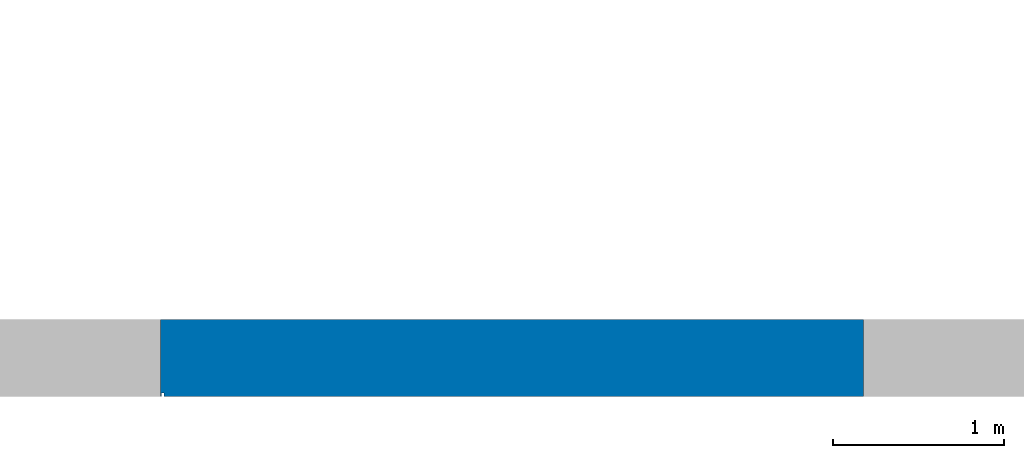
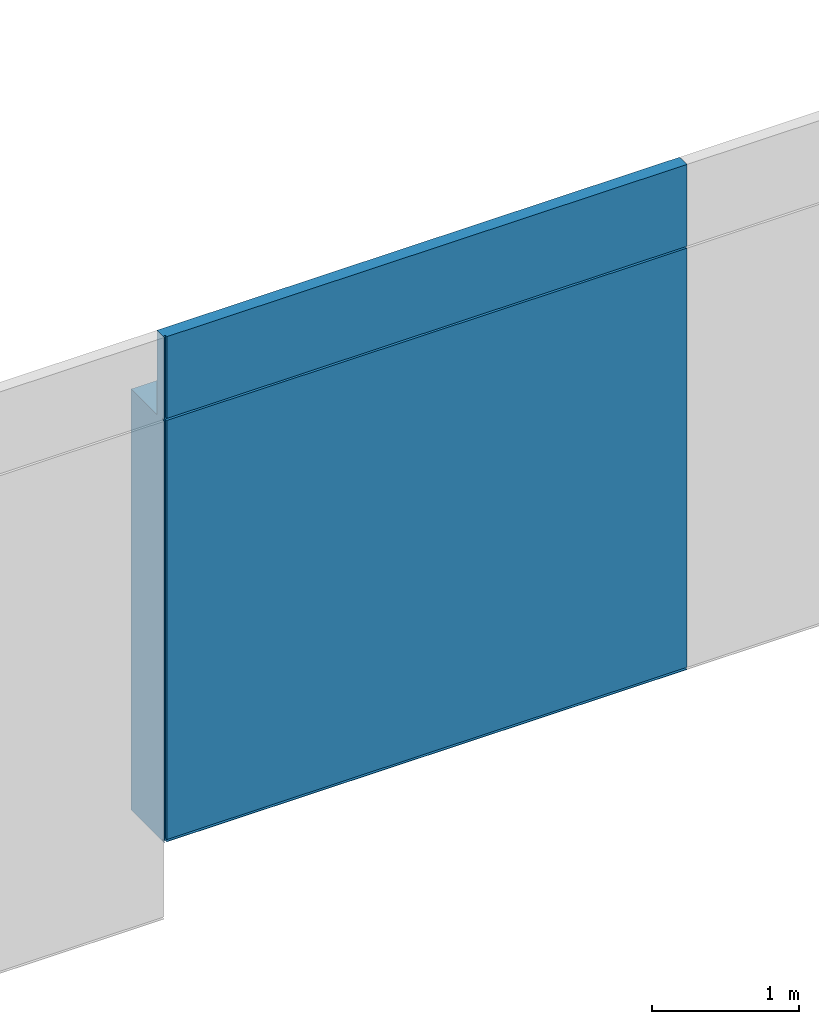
# One storey, part 5 of 33: 1 wall, 4 openings.
"""IFC2X3 building model written with IfcOpenShell, lengths in millimetres."""

from ifc_helpers import new_model, entity, si_unit, converted_unit, derived_unit, direction, frame, frame_2d, origin, origin_2d_with_axis, place, context, subcontext, project, spatial, polyline, rectangle, extrude, clip, bounded_halfspace, material, layer, layer_set, layer_usage, type_object, element, save


model = new_model("IFC2X3")

# Units and contexts
model_context = context("Model", 3, precision=0.01, world=origin(), true_north=direction((6.12303176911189e-17, 1.0)))
body_context = subcontext(model_context, "Body", "Model", "MODEL_VIEW")
ifc_project = project(units=[si_unit("LENGTHUNIT", "METRE", prefix="MILLI"), si_unit("AREAUNIT", "SQUARE_METRE"), si_unit("VOLUMEUNIT", "CUBIC_METRE"), converted_unit("PLANEANGLEUNIT", "DEGREE", entity("IfcRatioMeasure", 0.0174532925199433), si_unit("PLANEANGLEUNIT", "RADIAN"), dimensions=[0, 0, 0, 0, 0, 0, 0]), si_unit("MASSUNIT", "GRAM", prefix="KILO"), derived_unit("MASSDENSITYUNIT", [(si_unit("MASSUNIT", "GRAM", prefix="KILO"), 1), (si_unit("LENGTHUNIT", "METRE"), -3)]), si_unit("TIMEUNIT", "SECOND"), si_unit("FREQUENCYUNIT", "HERTZ"), si_unit("THERMODYNAMICTEMPERATUREUNIT", "DEGREE_CELSIUS"), derived_unit("THERMALTRANSMITTANCEUNIT", [(si_unit("MASSUNIT", "GRAM", prefix="KILO"), 1), (si_unit("THERMODYNAMICTEMPERATUREUNIT", "KELVIN"), -1), (si_unit("TIMEUNIT", "SECOND"), -3)]), derived_unit("VOLUMETRICFLOWRATEUNIT", [(si_unit("LENGTHUNIT", "METRE"), 3), (si_unit("TIMEUNIT", "SECOND"), -1)]), si_unit("ELECTRICCURRENTUNIT", "AMPERE"), si_unit("ELECTRICVOLTAGEUNIT", "VOLT"), si_unit("POWERUNIT", "WATT"), si_unit("FORCEUNIT", "NEWTON", prefix="KILO"), si_unit("ILLUMINANCEUNIT", "LUX"), si_unit("LUMINOUSFLUXUNIT", "LUMEN"), si_unit("LUMINOUSINTENSITYUNIT", "CANDELA"), derived_unit("USERDEFINED", [(si_unit("MASSUNIT", "GRAM", prefix="KILO"), -1), (si_unit("LENGTHUNIT", "METRE"), -2), (si_unit("TIMEUNIT", "SECOND"), 3), (si_unit("LUMINOUSFLUXUNIT", "LUMEN"), 1)]), derived_unit("LINEARVELOCITYUNIT", [(si_unit("LENGTHUNIT", "METRE"), 1), (si_unit("TIMEUNIT", "SECOND"), -1)]), si_unit("PRESSUREUNIT", "PASCAL"), derived_unit("USERDEFINED", [(si_unit("LENGTHUNIT", "METRE"), -2), (si_unit("MASSUNIT", "GRAM", prefix="KILO"), 1), (si_unit("TIMEUNIT", "SECOND"), -2)])], contexts=[model_context])

# Site, building, storey
site_placement = place(None, origin())
site = spatial("IfcSite", under=ifc_project, at=site_placement, Name="Default", CompositionType="ELEMENT")
building_placement = place(site_placement, origin())
building = spatial("IfcBuilding", under=site, at=building_placement, CompositionType="ELEMENT")
storey_placement = place(building_placement, frame((0.0, 0.0, 4000.0)))
storey = spatial("IfcBuildingStorey", under=building, at=storey_placement, Name="2. KORRUS", CompositionType="ELEMENT", Elevation=4000.0)

# Wall, openings
ifc_material_1 = material(Name="RECKLI 1 173 THUR by Polantis 2016-toon2")
ifc_layer_1 = layer(ifc_material_1, 100.0)
ifc_material_2 = material(Name="Soojusisolatsioon EPS")
ifc_layer_2 = layer(ifc_material_2, 200.0)
ifc_material_3 = material(Name="r/b")
ifc_layer_3 = layer(ifc_material_3, 150.0)
ifc_layer_set = layer_set([ifc_layer_1, ifc_layer_2, ifc_layer_3], Name="Basic Wall:VS-1_toon-c")
ifc_layer_usage = layer_usage(ifc_layer_set, "AXIS2", "NEGATIVE", 225.0)
wall_type = type_object("IfcWallType", Name="Basic Wall:VS-1_toon-c", PredefinedType="STANDARD", material=ifc_layer_set)
wall_placement = place(storey_placement, frame((15510.0, -225.0, 500.0), z_axis=(0.0, 0.0, 1.0), x_axis=(-1.0, 0.0, 0.0)))
wall = element("IfcWallStandardCase", 1, at=wall_placement, inside=storey, type_object=wall_type, material=ifc_layer_usage, Name="Basic Wall:VS-1_toon-c", ObjectType="Basic Wall:VS-1_toon-c", context=body_context, shape_type="Clipping", body=[
    clip(extrude(rectangle(XDim=4110.0, YDim=450.0, at=frame_2d((2055.0, 0.0), x_axis=(-1.0, 0.0))), origin(), (0.0, 0.0, 1.0), 4200.0), bounded_halfspace(frame((0.0, -225.0, 3500.0), z_axis=(0.0, 0.0, 1.0), x_axis=(0.0, 1.0, 0.0)), False, frame((0.0, -225.0, 3500.0)), polyline([(0.0, 0.0), (4110.0, 0.0), (4110.0, 350.0), (0.0, 350.0), (0.0, 0.0)]))),
])
opening_1_placement = place(wall_placement, origin())
element("IfcOpeningElement", 2, at=opening_1_placement, cuts=wall, Name="Basic Wall:VS-1_toon-c", ObjectType="Opening", context=body_context, shape_type="SweptSolid", body=[
    extrude(rectangle(XDim=4499.99999999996, YDim=3600.0, at=frame_2d((2.1600499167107e-12, 0.0), x_axis=(0.0, 1.0))), frame((2310.0, -1749.0, -2250.0), z_axis=(0.0, 1.0, 0.0), x_axis=(-1.0, 0.0, 0.0)), (0.0, 0.0, 1.0), 3048.0),
])
opening_2_placement = place(wall_placement, origin())
element("IfcOpeningElement", 3, at=opening_2_placement, cuts=wall, Name="Basic Wall:VS-1_toon-c", ObjectType="Recess", context=body_context, shape_type="SweptSolid", body=[
    extrude(rectangle(XDim=4200.0, YDim=16.0000000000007, at=origin_2d_with_axis()), frame((4097.96782085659, 205.0, 2100.0), z_axis=(0.0, 1.0, 0.0), x_axis=(0.0, 0.0, 1.0)), (0.0, 0.0, 1.0), 20.0000000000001),
])
opening_3_placement = place(wall_placement, origin())
element("IfcOpeningElement", 4, at=opening_3_placement, cuts=wall, Name="Basic Wall:VS-1_toon-c", ObjectType="Recess", context=body_context, shape_type="SweptSolid", body=[
    extrude(rectangle(XDim=16.0000000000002, YDim=4790.0, at=frame_2d((0.0, 2.70450328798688e-13), x_axis=(0.0, 1.0))), frame((-16895.0, 205.0, 12.0), z_axis=(0.0, 1.0, 0.0), x_axis=(1.0, 0.0, 0.0)), (0.0, 0.0, 1.0), 20.0000000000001),
    extrude(rectangle(XDim=16.0000000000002, YDim=4110.0, at=frame_2d((-1.13686837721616e-12, 2.70450328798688e-13), x_axis=(0.0, 1.0))), frame((2055.0, 205.0, 12.0), z_axis=(0.0, 1.0, 0.0), x_axis=(1.0, 0.0, 0.0)), (0.0, 0.0, 1.0), 19.9999999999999),
    extrude(rectangle(XDim=16.0000000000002, YDim=4600.0, at=frame_2d((1.13686837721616e-12, 2.70450328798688e-13), x_axis=(0.0, 1.0))), frame((-2300.0, 205.0, 12.0), z_axis=(0.0, 1.0, 0.0), x_axis=(1.0, 0.0, 0.0)), (0.0, 0.0, 1.0), 20.0),
    extrude(rectangle(XDim=16.0000000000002, YDim=4600.0, at=frame_2d((2.27373675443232e-12, 2.70450328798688e-13), x_axis=(0.0, 1.0))), frame((-6900.0, 205.0, 12.0), z_axis=(0.0, 1.0, 0.0), x_axis=(1.0, 0.0, 0.0)), (0.0, 0.0, 1.0), 20.0),
    extrude(rectangle(XDim=16.0000000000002, YDim=5299.99999999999, at=frame_2d((-2.04636307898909e-12, 2.70450328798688e-13), x_axis=(0.0, 1.0))), frame((-11850.0, 205.0, 12.0), z_axis=(0.0, 1.0, 0.0), x_axis=(1.0, 0.0, 0.0)), (0.0, 0.0, 1.0), 20.0),
])
opening_4_placement = place(wall_placement, origin())
element("IfcOpeningElement", 5, at=opening_4_placement, cuts=wall, Name="Basic Wall:VS-1_toon-c", ObjectType="Opening", context=body_context, shape_type="SweptSolid", body=[
    extrude(rectangle(XDim=15.9999999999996, YDim=7590.0, at=frame_2d((0.0, 5.40900657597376e-13), x_axis=(0.0, 1.0))), frame((7905.0, 205.0, 3512.0), z_axis=(0.0, 1.0, 0.0), x_axis=(1.0, 0.0, 0.0)), (0.0, 0.0, 1.0), 20.0),
    extrude(rectangle(XDim=15.9999999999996, YDim=20.0, at=frame_2d((-3.37507799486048e-14, 5.40900657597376e-13), x_axis=(0.0, 1.0))), frame((15950.0, -28175.0, 3512.0), z_axis=(0.0, 1.0, 0.0), x_axis=(1.0, 0.0, 0.0)), (0.0, 0.0, 1.0), 4660.0),
    extrude(rectangle(XDim=15.9999999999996, YDim=5230.3475962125, at=frame_2d((1.13686837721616e-12, -5.40900657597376e-13), x_axis=(0.0, 1.0))), frame((3244.82620189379, -22175.0517807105, 3512.0), z_axis=(0.0, 1.0, 0.0), x_axis=(-1.0, 0.0, 0.0)), (0.0, 0.0, 1.0), 19.9999999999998),
    extrude(rectangle(XDim=15.9999999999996, YDim=4360.0, at=frame_2d((0.0, -5.40900657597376e-13), x_axis=(0.0, 1.0))), frame((13780.0, -28275.0, 3512.0), z_axis=(0.0, 1.0, 0.0), x_axis=(-1.0, 0.0, 0.0)), (0.0, 0.0, 1.0), 19.9999999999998),
    extrude(rectangle(XDim=15.9999999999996, YDim=5050.0, at=frame_2d((2.27373675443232e-12, 0.0), x_axis=(0.0, 1.0))), frame((-21815.0, 205.0, 3512.0), z_axis=(0.0, 1.0, 0.0), x_axis=(1.0, 0.0, 0.0)), (0.0, 0.0, 1.0), 20.0),
    extrude(rectangle(XDim=15.9999999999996, YDim=5979.89642978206, at=frame_2d((-2.27373675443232e-12, 0.0), x_axis=(0.0, 1.0))), frame((-21450.0517851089, -22175.0517807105, 3512.0), z_axis=(0.0, 1.0, 0.0), x_axis=(-1.0, 0.0, 0.0)), (0.0, 0.0, 1.0), 19.9999999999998),
    extrude(rectangle(XDim=15.9999999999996, YDim=5306.88742148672, at=frame_2d((2.04636307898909e-12, -5.40900657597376e-13), x_axis=(0.0, 1.0))), frame((-15806.6598594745, -22175.0517807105, 3512.0), z_axis=(0.0, 1.0, 0.0), x_axis=(-1.0, 0.0, 0.0)), (0.0, 0.0, 1.0), 19.9999999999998),
    extrude(rectangle(XDim=15.9999999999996, YDim=19.9999999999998, at=frame_2d((-5.40900657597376e-13, 0.0), x_axis=(1.0, 0.0))), frame((5870.0, -28175.0, 3512.0), z_axis=(0.0, 1.0, 0.0), x_axis=(0.0, 0.0, -1.0)), (0.0, 0.0, 1.0), 6099.94821928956),
    extrude(rectangle(XDim=15.9999999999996, YDim=4160.00000000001, at=frame_2d((0.0, 5.40900657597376e-13), x_axis=(0.0, 1.0))), frame((13780.0, 205.0, 3512.0), z_axis=(0.0, 1.0, 0.0), x_axis=(1.0, 0.0, 0.0)), (0.0, 0.0, 1.0), 20.0),
    extrude(rectangle(XDim=15.9999999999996, YDim=20.0000000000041, at=frame_2d((5.40900657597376e-13, -4.33164615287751e-12), x_axis=(1.0, 0.0))), frame((-24430.0, -4640.0, 3512.0), z_axis=(0.0, 1.0, 0.0), x_axis=(0.0, 0.0, -1.0)), (0.0, 0.0, 1.0), 4865.0),
    extrude(rectangle(XDim=15.9999999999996, YDim=20.0000000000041, at=frame_2d((5.40900657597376e-13, -4.33164615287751e-12), x_axis=(1.0, 0.0))), frame((-24430.0, -8868.33000000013, 3512.0), z_axis=(0.0, 1.0, 0.0), x_axis=(0.0, 0.0, -1.0)), (0.0, 0.0, 1.0), 4228.33000000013),
    extrude(rectangle(XDim=15.9999999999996, YDim=20.0000000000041, at=frame_2d((5.40900657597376e-13, -4.33164615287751e-12), x_axis=(1.0, 0.0))), frame((-24430.0, -13105.0, 3512.0), z_axis=(0.0, 1.0, 0.0), x_axis=(0.0, 0.0, -1.0)), (0.0, 0.0, 1.0), 4236.66999997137),
    extrude(rectangle(XDim=15.9999999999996, YDim=20.0000000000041, at=frame_2d((5.40900657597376e-13, -4.33164615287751e-12), x_axis=(1.0, 0.0))), frame((-24430.0, -16015.0, 3512.0), z_axis=(0.0, 1.0, 0.0), x_axis=(0.0, 0.0, -1.0)), (0.0, 0.0, 1.0), 2910.00000002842),
    extrude(rectangle(XDim=15.9999999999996, YDim=20.0000000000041, at=frame_2d((-5.40900657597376e-13, 4.33164615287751e-12), x_axis=(1.0, 0.0))), frame((-24430.0, -22075.0517807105, 3512.0), z_axis=(0.0, 1.0, 0.0), x_axis=(0.0, 0.0, -1.0)), (0.0, 0.0, 1.0), 6060.05178071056),
    extrude(rectangle(XDim=15.9999999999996, YDim=3831.64710898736, at=frame_2d((2.1600499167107e-12, -5.40900657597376e-13), x_axis=(0.0, 1.0))), frame((-4659.17644550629, -22175.0517807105, 3512.0), z_axis=(0.0, 1.0, 0.0), x_axis=(-1.0, 0.0, 0.0)), (0.0, 0.0, 1.0), 19.9999999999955),
    extrude(rectangle(XDim=15.9999999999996, YDim=3373.00529480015, at=frame_2d((0.0, -5.40900657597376e-13), x_axis=(0.0, 1.0))), frame((-1056.85024361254, -22175.0517807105, 3512.0), z_axis=(0.0, 1.0, 0.0), x_axis=(-1.0, 0.0, 0.0)), (0.0, 0.0, 1.0), 19.9999999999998),
    extrude(rectangle(XDim=15.9999999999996, YDim=5739.99999999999, at=frame_2d((-2.27373675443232e-13, -5.40900657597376e-13), x_axis=(0.0, 1.0))), frame((8730.0, -28275.0, 3512.0), z_axis=(0.0, 1.0, 0.0), x_axis=(-1.0, 0.0, 0.0)), (0.0, 0.0, 1.0), 19.9999999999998),
    extrude(rectangle(XDim=15.9999999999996, YDim=20.0, at=frame_2d((3.37507799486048e-14, 5.40900657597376e-13), x_axis=(0.0, 1.0))), frame((15950.0, -23515.0, 3512.0), z_axis=(0.0, 1.0, 0.0), x_axis=(1.0, 0.0, 0.0)), (0.0, 0.0, 1.0), 6849.99930276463),
    extrude(rectangle(XDim=15.9999999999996, YDim=20.0, at=frame_2d((-3.37507799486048e-14, 5.40900657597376e-13), x_axis=(0.0, 1.0))), frame((15950.0, -16665.0006972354, 3512.0), z_axis=(0.0, 1.0, 0.0), x_axis=(1.0, 0.0, 0.0)), (0.0, 0.0, 1.0), 3430.00069726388),
    extrude(rectangle(XDim=15.9999999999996, YDim=6578.21614873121, at=frame_2d((0.0, -5.40900657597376e-13), x_axis=(0.0, 1.0))), frame((-9864.10807436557, -22175.0517807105, 3512.0), z_axis=(0.0, 1.0, 0.0), x_axis=(-1.0, 0.0, 0.0)), (0.0, 0.0, 1.0), 19.9999999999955),
    extrude(rectangle(XDim=15.9999999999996, YDim=4110.00000000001, at=frame_2d((0.0, 5.40900657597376e-13), x_axis=(0.0, 1.0))), frame((2055.0, 205.0, 3512.0), z_axis=(0.0, 1.0, 0.0), x_axis=(1.0, 0.0, 0.0)), (0.0, 0.0, 1.0), 19.9999999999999),
    extrude(rectangle(XDim=15.9999999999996, YDim=4600.0, at=frame_2d((1.13686837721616e-12, 5.40900657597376e-13), x_axis=(0.0, 1.0))), frame((-2300.0, 205.0, 3512.0), z_axis=(0.0, 1.0, 0.0), x_axis=(1.0, 0.0, 0.0)), (0.0, 0.0, 1.0), 20.0),
    extrude(rectangle(XDim=15.9999999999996, YDim=4600.0, at=frame_2d((2.27373675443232e-12, 5.40900657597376e-13), x_axis=(0.0, 1.0))), frame((-6900.0, 205.0, 3512.0), z_axis=(0.0, 1.0, 0.0), x_axis=(1.0, 0.0, 0.0)), (0.0, 0.0, 1.0), 20.0),
    extrude(rectangle(XDim=15.9999999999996, YDim=5299.99999999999, at=frame_2d((-2.04636307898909e-12, 5.40900657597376e-13), x_axis=(0.0, 1.0))), frame((-11850.0, 205.0, 3512.0), z_axis=(0.0, 1.0, 0.0), x_axis=(1.0, 0.0, 0.0)), (0.0, 0.0, 1.0), 20.0),
    extrude(rectangle(XDim=15.9999999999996, YDim=4790.0, at=frame_2d((0.0, 5.40900657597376e-13), x_axis=(0.0, 1.0))), frame((-16895.0, 205.0, 3512.0), z_axis=(0.0, 1.0, 0.0), x_axis=(1.0, 0.0, 0.0)), (0.0, 0.0, 1.0), 20.0000000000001),
    extrude(rectangle(XDim=15.9999999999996, YDim=20.0, at=frame_2d((3.37507799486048e-14, 5.40900657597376e-13), x_axis=(0.0, 1.0))), frame((15950.0, -13235.0, 3512.0), z_axis=(0.0, 1.0, 0.0), x_axis=(1.0, 0.0, 0.0)), (0.0, 0.0, 1.0), 4724.85920481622),
    extrude(rectangle(XDim=15.9999999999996, YDim=20.0, at=frame_2d((-3.37507799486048e-14, 5.40900657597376e-13), x_axis=(0.0, 1.0))), frame((15950.0, -8510.1407951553, 3512.0), z_axis=(0.0, 1.0, 0.0), x_axis=(1.0, 0.0, 0.0)), (0.0, 0.0, 1.0), 8735.1407951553),
])

save(model, "model.ifc")
